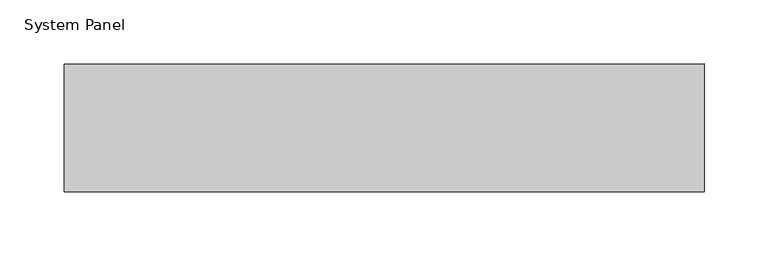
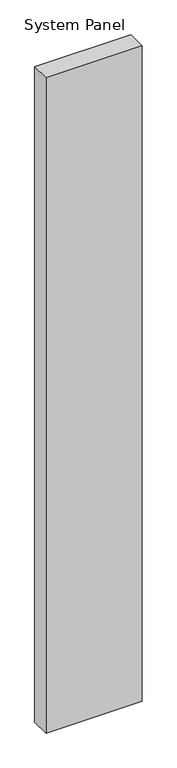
"""IFC4 building model written with IfcOpenShell, lengths in millimetres: plate geometry, System Panel : Inspire 100mm Vertical - Plain RHEA-PIR."""

from ifc_helpers import new_model, si_unit, origin, origin_with_axes, place, context, project, spatial, polyline, outline, extrude, source, transform, mapped, element, save


def system_panel_5fcba945(model_context):
    return source(origin(), model_context, "Body", "SweptSolid", [
        extrude(outline(polyline([(250.0, 0.0), (-250.0, 0.0), (-250.0, 100.0), (250.0, 100.0), (250.0, 0.0)])), origin_with_axes(), (0.0, 0.0, 1.0), 3600.0),
    ])


if __name__ == "__main__":
    model = new_model("IFC4")
    model_context = context("Model", 3, world=origin())
    ifc_project = project(units=[si_unit("LENGTHUNIT", "METRE", prefix="MILLI")], contexts=[model_context])
    site = spatial("IfcSite", under=ifc_project)
    building = spatial("IfcBuilding", under=site)
    placement = place(None, origin())
    system_panel_shape = system_panel_5fcba945(model_context)
    element("IfcPlate", 1, ObjectType="System Panel : Inspire 100mm Vertical - Plain RHEA-PIR", at=placement, inside=building, context=model_context, shape_type="MappedRepresentation", body=[
        mapped(system_panel_shape, transform((0.0, 0.0, 0.0), x_axis=(1.0, 0.0, 0.0), y_axis=(0.0, 1.0, 0.0), z_axis=(0.0, 0.0, 1.0))),
    ])
    save(model, "model.ifc")
